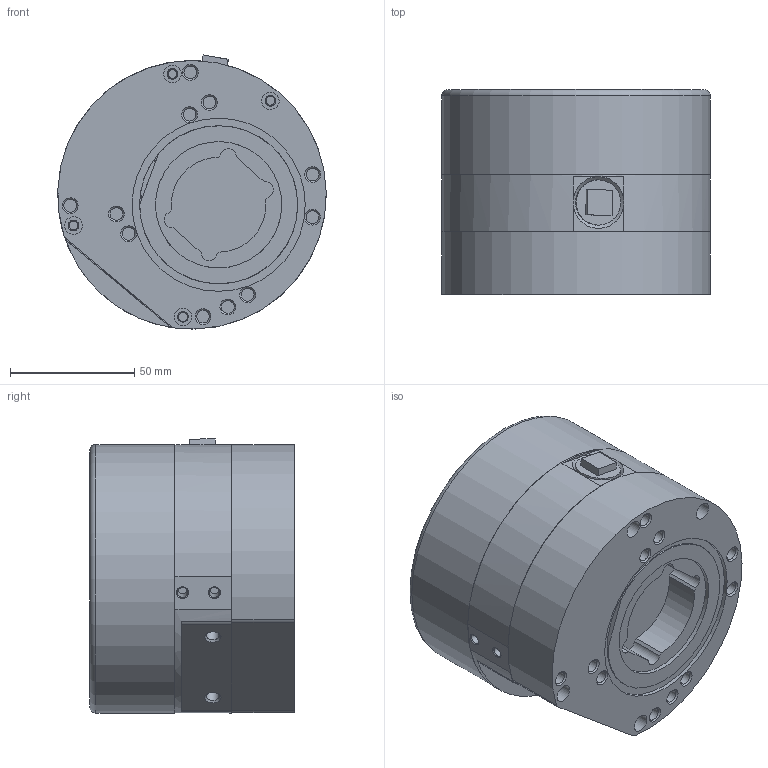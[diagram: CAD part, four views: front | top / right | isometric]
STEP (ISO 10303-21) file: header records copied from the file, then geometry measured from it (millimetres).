
FILE_DESCRIPTION (( 'STEP AP203' ), '1' );
FILE_NAME ('#R-Series H Stage Assembly.STEP', '2020-09-23T14:30:21', ( 'Technician #5' ), ( '' ), 'SwSTEP 2.0', 'SolidWorks 2020', '' );
FILE_SCHEMA (( 'CONFIG_CONTROL_DESIGN' ));
Length unit declared in the file: inch
Products named in the file (9): 3010-22 Enclosure Base (Rev. 2); 3022-2 Bearing; 3024-3 Drive Wheel; NPT Plug; 3030-2 ext gear housing; #R-Series H Stage Assembly; 1154a Output Bearing; 1154 BigGearExt; 3016-8 Enclosure Cover
Assembly tree (8 placements, depth 2):
  #R-Series H Stage Assembly
    3016-8 Enclosure Cover
    3010-22 Enclosure Base (Rev. 2)
    3022-2 Bearing
    3024-3 Drive Wheel
    3030-2 ext gear housing
    1154a Output Bearing
    1154 BigGearExt
    NPT Plug
Bounding box: 107.95 x 82.3 x 110.19 mm (x, y, z)
Volume: 409834.3 mm3; surface area: 150075.7 mm2
Topology: 8 solids, 8 shells, 588 faces, 1445 edges, 941 vertices
Faces by surface type: cylinder 255, plane 254, cone 53, bspline 14, torus 12
Full cylindrical faces by diameter (mm): 2.403 x3, 2.705 x1, 3.155 x1, 3.175 x1, 3.556 x4, 3.569 x18, 4.039 x3, 4.293 x4, 4.763 x6, 4.775 x1, 5.105 x13, 6.335 x1, 6.35 x1, 7.026 x4, 9.5 x1, 9.515 x1, 9.525 x1, 12.898 x1, 13.716 x1, 14.3 x1, 14.351 x2, 18.18 x1, 19.05 x1, 19.101 x1, 31.75 x2, 34.29 x2, 50.8 x2, 53.34 x1, 63.602 x1, 69.596 x1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
Entity records: 18064 total; most frequent: CARTESIAN_POINT 3534, DIRECTION 2989, ORIENTED_EDGE 2530, EDGE_CURVE 1265, AXIS2_PLACEMENT_3D 1192, VERTEX_POINT 908, EDGE_LOOP 831, FACE_OUTER_BOUND 680
